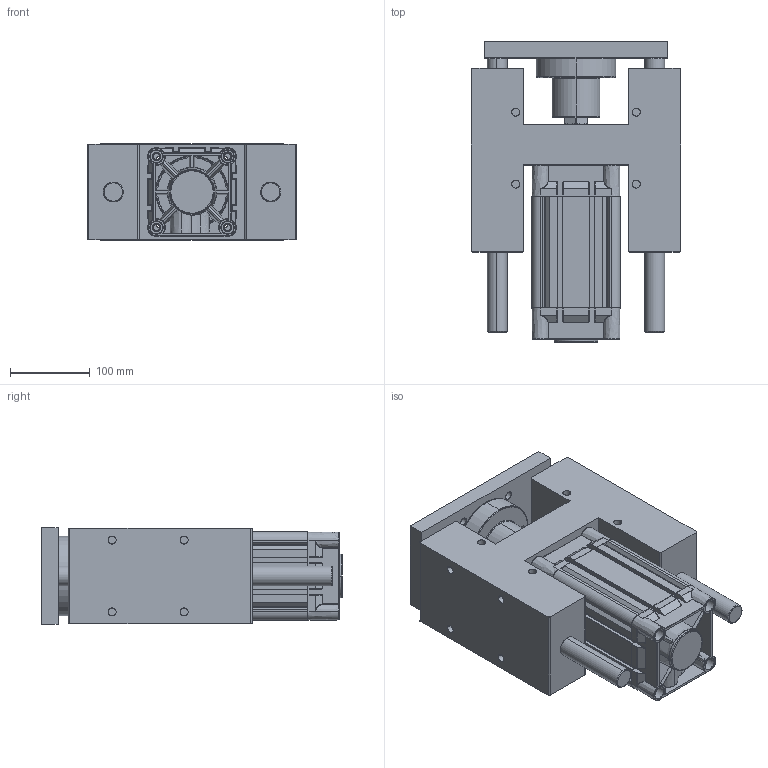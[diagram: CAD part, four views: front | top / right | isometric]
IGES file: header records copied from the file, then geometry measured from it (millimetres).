
Start section: SolidWorks IGES file using analytic representation for surfaces
Global section: file name: D:\ARICA 3D 禽Z軲LER\3D IGES\DNC-H\100\KDNC100X80H-YATAK.IGS,1; native system: 5HSolidWorks 2013; preprocessor: SolidWorks 2013; author: user; date: 160427.083026; units: millimetre
Bounding box: 262 x 376.2 x 120.5 mm (x, y, z)
Surface area: 866972.9 mm2 (no closed solid volume)
Topology: 0 solids, 0 shells, 1300 faces, 20979 edges, 20958 vertices
Faces by surface type: revolution 710, bspline 590
